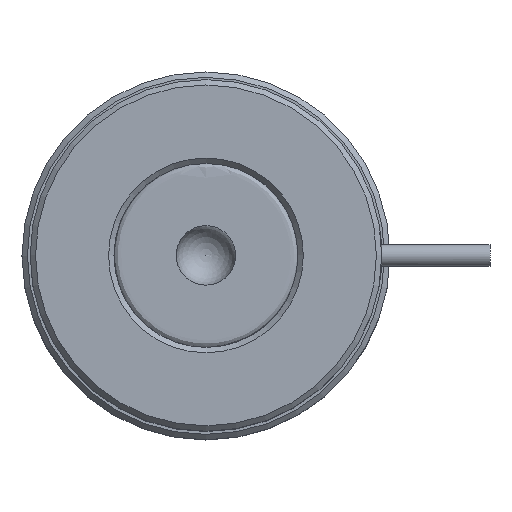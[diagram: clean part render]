
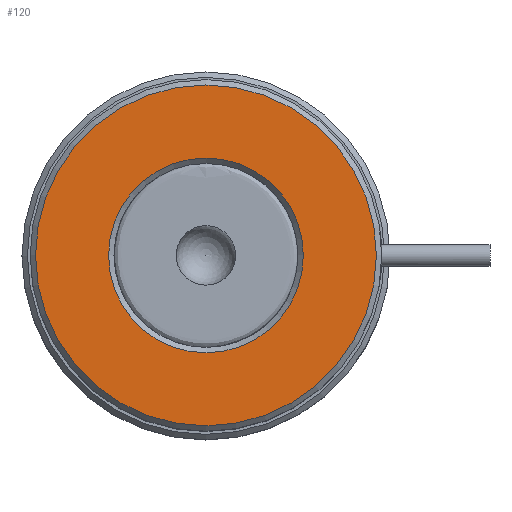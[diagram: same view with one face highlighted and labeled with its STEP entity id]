
A CAD part, top view. The second image highlights one B-rep face of the part: STEP entity #120.
In plain terms, the highlighted planar face has unit normal (0, 0, 1).
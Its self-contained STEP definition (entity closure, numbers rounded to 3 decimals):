
#120=ADVANCED_FACE('',(#316,#317),#318,.T.);
#316=FACE_OUTER_BOUND('',#662,.T.);
#317=FACE_BOUND('',#663,.T.);
#318=PLANE('',#664);
#662=EDGE_LOOP('',(#1006));
#663=EDGE_LOOP('',(#1007));
#664=AXIS2_PLACEMENT_3D('',#1008,#1009,#1010);
#1006=ORIENTED_EDGE('',*,*,#1621,.T.);
#1007=ORIENTED_EDGE('',*,*,#1622,.T.);
#1008=CARTESIAN_POINT('',(0.0,0.0,50.));
#1009=DIRECTION('',(0.0,0.0,1.0));
#1010=DIRECTION('',(1.0,0.0,-0.0));
#1621=EDGE_CURVE('',#1793,#1793,#1794,.T.);
#1622=EDGE_CURVE('',#1795,#1795,#1796,.F.);
#1793=VERTEX_POINT('',#2167);
#1794=CIRCLE('',#2168,31.5);
#1795=VERTEX_POINT('',#2169);
#1796=CIRCLE('',#2170,18.0);
#2167=CARTESIAN_POINT('',(31.5,0.0,50.));
#2168=AXIS2_PLACEMENT_3D('',#2461,#2462,#2463);
#2169=CARTESIAN_POINT('',(18.0,0.,50.));
#2170=AXIS2_PLACEMENT_3D('',#2464,#2465,#2466);
#2461=CARTESIAN_POINT('',(0.0,0.0,50.));
#2462=DIRECTION('',(0.0,0.0,1.0));
#2463=DIRECTION('',(1.0,0.0,-0.0));
#2464=CARTESIAN_POINT('',(0.0,0.0,50.));
#2465=DIRECTION('',(0.0,0.0,1.0));
#2466=DIRECTION('',(1.0,0.0,-0.0));
